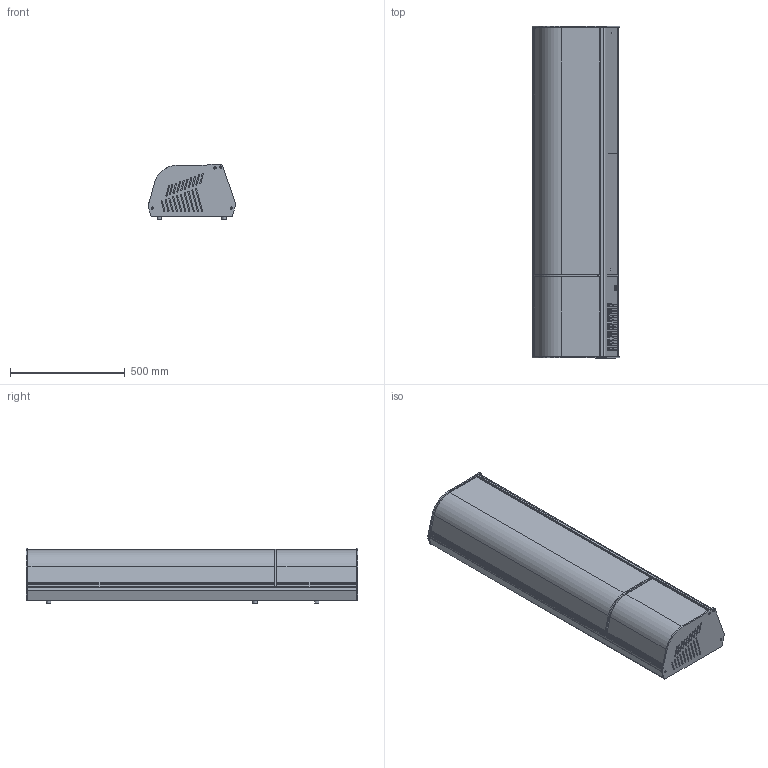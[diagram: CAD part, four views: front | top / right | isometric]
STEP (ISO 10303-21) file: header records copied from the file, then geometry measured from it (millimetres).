
FILE_DESCRIPTION(/* description */ ('Unknown'),/* implementation_level */ '2;1');
FILE_NAME(/* name */ 'vitrina frigorifica 6B_V1',/* time_stamp */ '2018-04-24T13:01:33+02:00',/* author */ ('Unknown'),/* organization */ ('Unknown'),/* preprocessor_version */ 'ST-DEVELOPER v16.7',/* originating_system */ 'DEX',/* authorisation */ $);
FILE_SCHEMA (('CONFIG_CONTROL_DESIGN'));
Length unit declared in the file: millimetre
Products named in the file (18): vitrina frigorifica 6B_V1; 46-1+6B+V1_oa_0; 46-5; 46-1+6B+V1_oa_1; 46-36; 46-82_oa_2; 46-38; 46-3+uc; 46-3+6B; 46-9+6700; 46-15+6B_v1; 46-11_v1; 46-12+6702; 46-23+6B_SIMPLE_V1; 46-18+6B_v2; 46-51+U_C._oa_3; 46-25+6705; 46-40
Assembly tree (23 placements, depth 3):
  vitrina frigorifica 6B_V1
    46-1+6B+V1_oa_0
    46-5
    46-1+6B+V1_oa_1
    46-36
    46-82_oa_2
      46-38
    46-3+uc
    46-3+6B
    46-9+6700
    46-15+6B_v1
    46-11_v1
    46-12+6702
    46-23+6B_SIMPLE_V1  x2
    46-18+6B_v2
    46-51+U_C._oa_3
      46-25+6705
    46-40  x6
Bounding box: 383.15 x 1447 x 241.45 mm (x, y, z)
Volume: 6260687.4 mm3; surface area: 4818732.3 mm2
Topology: 21 solids, 21 shells, 1303 faces, 3691 edges, 2435 vertices
Faces by surface type: plane 977, cylinder 287, cone 17, bspline 16, torus 6
Full cylindrical faces by diameter (mm): 3 x4, 3.5 x2, 5 x4, 5.5 x4, 6 x9, 8 x19, 16.5 x1, 30 x2
Entity records: 42581 total; most frequent: CARTESIAN_POINT 7667, ORIENTED_EDGE 7110, DIRECTION 6608, EDGE_CURVE 3555, LINE 2958, VECTOR 2958, VERTEX_POINT 2372, AXIS2_PLACEMENT_3D 1825
